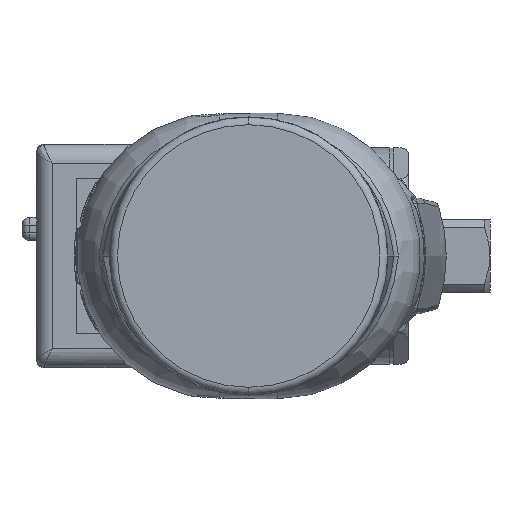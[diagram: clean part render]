
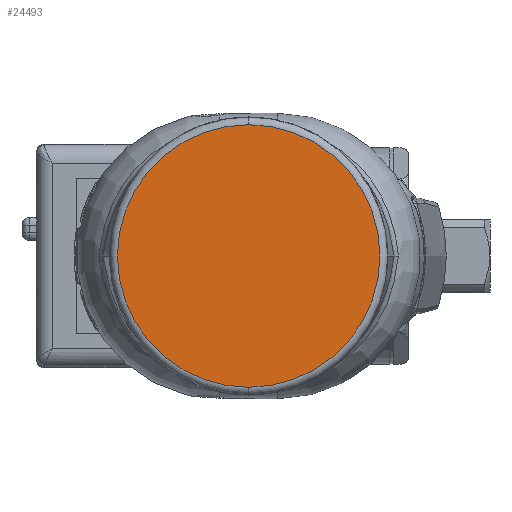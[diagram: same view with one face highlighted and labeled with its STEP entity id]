
A CAD part, left-side view. The second image highlights one B-rep face of the part: STEP entity #24493.
In plain terms, the highlighted planar face has unit normal (-1, 0, 0).
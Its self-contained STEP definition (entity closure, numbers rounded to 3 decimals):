
#2246 = EDGE_CURVE ( 'NONE', #24646, #18201, #47453, .T. ) ;
#4405 = CARTESIAN_POINT ( 'NONE',  ( -203., -3.75, -17. ) ) ;
#5838 = CARTESIAN_POINT ( 'NONE',  ( -203., -3.75, 17. ) ) ;
#8178 = DIRECTION ( 'NONE',  ( 0., 0., -1. ) ) ;
#11555 = ORIENTED_EDGE ( 'NONE', *, *, #2246, .T. ) ;
#15811 = EDGE_LOOP ( 'NONE', ( #11555, #27576 ) ) ;
#18201 = VERTEX_POINT ( 'NONE', #5838 ) ;
#23485 = DIRECTION ( 'NONE',  ( 0., 0., -1. ) ) ;
#24493 = ADVANCED_FACE ( 'NONE', ( #33352 ), #55524, .F. ) ;
#24646 = VERTEX_POINT ( 'NONE', #4405 ) ;
#25876 = DIRECTION ( 'NONE',  ( 0., 0., -1. ) ) ;
#26072 = EDGE_CURVE ( 'NONE', #18201, #24646, #52876, .T. ) ;
#27576 = ORIENTED_EDGE ( 'NONE', *, *, #26072, .T. ) ;
#30973 = DIRECTION ( 'NONE',  ( -1., 0., 0. ) ) ;
#33352 = FACE_OUTER_BOUND ( 'NONE', #15811, .T. ) ;
#34581 = CARTESIAN_POINT ( 'NONE',  ( -203., -3.75, 0. ) ) ;
#36075 = CARTESIAN_POINT ( 'NONE',  ( -203., -3.75, 0. ) ) ;
#37895 = AXIS2_PLACEMENT_3D ( 'NONE', #34581, #57305, #25876 ) ;
#39892 = AXIS2_PLACEMENT_3D ( 'NONE', #55242, #46804, #23485 ) ;
#46804 = DIRECTION ( 'NONE',  ( 1., 0., 0. ) ) ;
#47453 = CIRCLE ( 'NONE', #37895, 17. ) ;
#50023 = AXIS2_PLACEMENT_3D ( 'NONE', #36075, #30973, #8178 ) ;
#52876 = CIRCLE ( 'NONE', #50023, 17. ) ;
#55242 = CARTESIAN_POINT ( 'NONE',  ( -203., -3.75, 0. ) ) ;
#55524 = PLANE ( 'NONE',  #39892 ) ;
#57305 = DIRECTION ( 'NONE',  ( -1., 0., 0. ) ) ;
